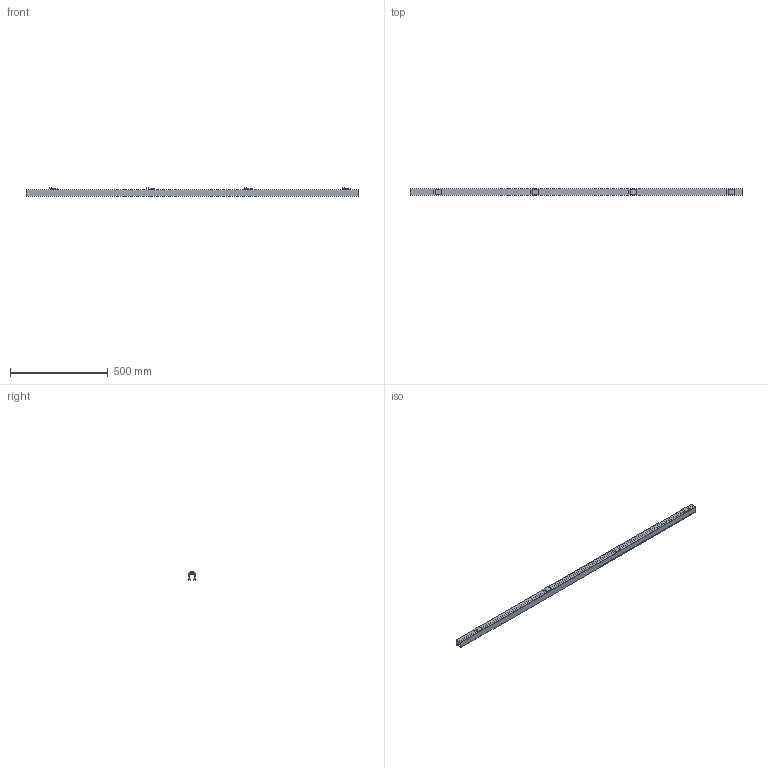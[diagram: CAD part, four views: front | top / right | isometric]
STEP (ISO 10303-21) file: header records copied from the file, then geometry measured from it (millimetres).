
FILE_DESCRIPTION(('STEP AP242'),'1');
FILE_NAME('OPO_65.081.61_volu_3d.stp','2026-01-30T20:51:04',(' '),(' '),'Spatial InterOp 3D',' ',' ');
FILE_SCHEMA(('AP242_MANAGED_MODEL_BASED_3D_ENGINEERING_MIM_LF {1 0 10303 442 1 1 4}'));
Length unit declared in the file: millimetre
Products named in the file (1): 1
Bounding box: 1700 x 33 x 43 mm (x, y, z)
Volume: 502410.7 mm3; surface area: 399836.7 mm2
Topology: 1 solids, 1 shells, 128 faces, 344 edges, 226 vertices
Faces by surface type: plane 108, cylinder 20
Entity records: 4988 total; most frequent: CARTESIAN_POINT 699, ORIENTED_EDGE 688, DIRECTION 642, EDGE_CURVE 344, LINE 304, VECTOR 304, VERTEX_POINT 226, AXIS2_PLACEMENT_3D 169
